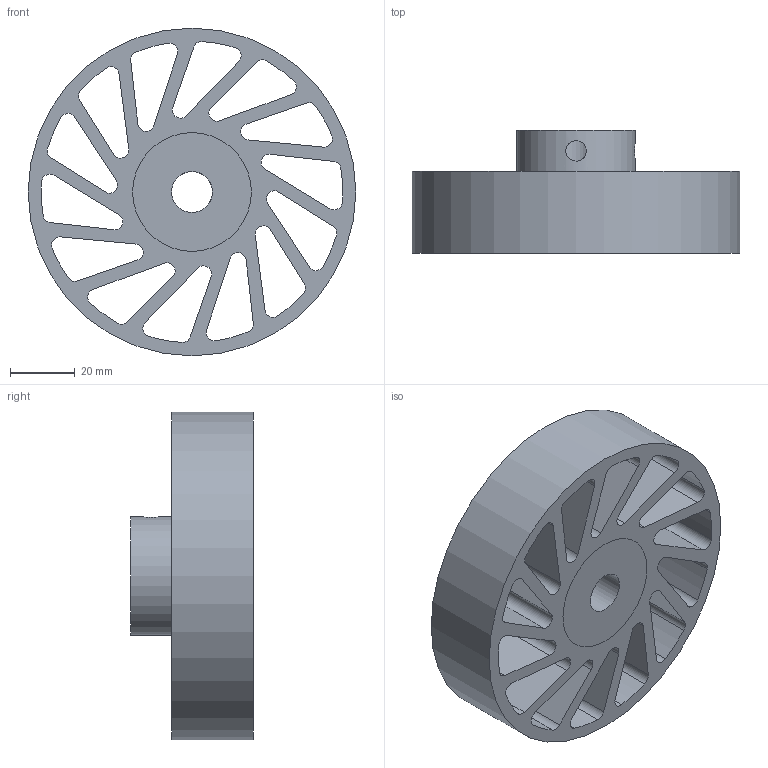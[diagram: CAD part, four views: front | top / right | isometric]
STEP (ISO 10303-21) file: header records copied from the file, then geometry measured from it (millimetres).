
FILE_DESCRIPTION(/* description */ (''),/* implementation_level */ '2;1');
FILE_NAME(/* name */ 'NCW-350-XXX-YYY.stp',/* time_stamp */ '2023-02-02T15:02:42-06:00',/* author */ ('AG'),/* organization */ ('Meridian Laboratory'),/* preprocessor_version */ 'ST-DEVELOPER v18.1',/* originating_system */ 'Autodesk Inventor 2022',/* authorisation */ '');
FILE_SCHEMA (('AUTOMOTIVE_DESIGN { 1 0 10303 214 3 1 1 }'));
Length unit declared in the file: inch
Products named in the file (1): NCW-340
Bounding box: 101.6 x 38.1 x 101.6 mm (x, y, z)
Volume: 123379.3 mm3; surface area: 50779.2 mm2
Topology: 2 solids, 2 shells, 94 faces, 276 edges, 186 vertices
Faces by surface type: cylinder 62, plane 32
Full cylindrical faces by diameter (mm): 6.35 x2, 12.725 x1, 36.83 x2, 101.6 x1
Entity records: 3530 total; most frequent: CARTESIAN_POINT 697, DIRECTION 576, ORIENTED_EDGE 552, EDGE_CURVE 276, AXIS2_PLACEMENT_3D 215, VERTEX_POINT 186, LINE 146, VECTOR 146
